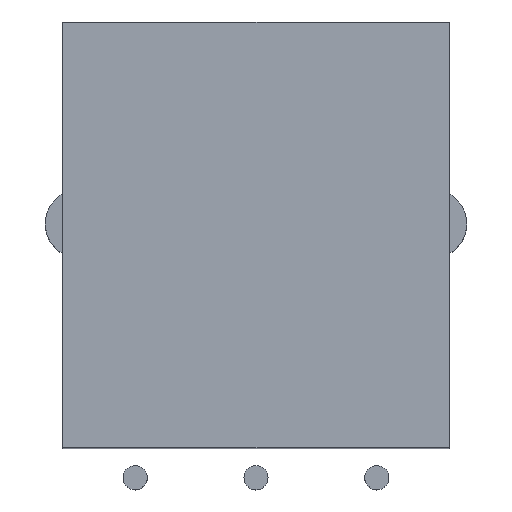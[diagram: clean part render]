
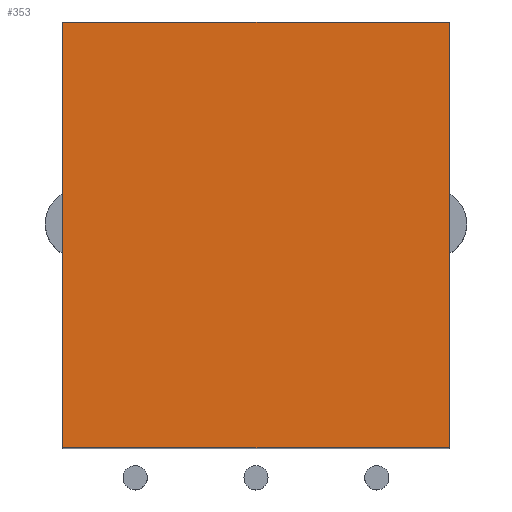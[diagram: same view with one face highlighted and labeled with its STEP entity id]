
A CAD part, top view. The second image highlights one B-rep face of the part: STEP entity #353.
In plain terms, the highlighted planar face has unit normal (0, 0, 1).
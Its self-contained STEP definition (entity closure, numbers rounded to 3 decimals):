
#39 = VERTEX_POINT('',#40);
#40 = CARTESIAN_POINT('',(-3.,18.8,28.));
#47 = PLANE('',#48);
#48 = AXIS2_PLACEMENT_3D('',#49,#50,#51);
#49 = CARTESIAN_POINT('',(-3.,18.8,0.));
#50 = DIRECTION('',(0.,1.,0.));
#51 = DIRECTION('',(1.,0.,0.));
#59 = PLANE('',#60);
#60 = AXIS2_PLACEMENT_3D('',#61,#62,#63);
#61 = CARTESIAN_POINT('',(-3.,1.2,0.));
#62 = DIRECTION('',(-1.,0.,0.));
#63 = DIRECTION('',(0.,1.,0.));
#71 = EDGE_CURVE('',#39,#72,#74,.T.);
#72 = VERTEX_POINT('',#73);
#73 = CARTESIAN_POINT('',(13.,18.8,28.));
#74 = SURFACE_CURVE('',#75,(#79,#86),.PCURVE_S1.);
#75 = LINE('',#76,#77);
#76 = CARTESIAN_POINT('',(-3.,18.8,28.));
#77 = VECTOR('',#78,1.);
#78 = DIRECTION('',(1.,0.,0.));
#79 = PCURVE('',#47,#80);
#80 = DEFINITIONAL_REPRESENTATION('',(#81),#85);
#81 = LINE('',#82,#83);
#82 = CARTESIAN_POINT('',(0.,-28.));
#83 = VECTOR('',#84,1.);
#84 = DIRECTION('',(1.,0.));
#85 = ( GEOMETRIC_REPRESENTATION_CONTEXT(2) 
PARAMETRIC_REPRESENTATION_CONTEXT() REPRESENTATION_CONTEXT('2D SPACE',''
  ) );
#86 = PCURVE('',#87,#92);
#87 = PLANE('',#88);
#88 = AXIS2_PLACEMENT_3D('',#89,#90,#91);
#89 = CARTESIAN_POINT('',(5.,10.,28.));
#90 = DIRECTION('',(0.,0.,-1.));
#91 = DIRECTION('',(0.,-1.,0.));
#92 = DEFINITIONAL_REPRESENTATION('',(#93),#97);
#93 = LINE('',#94,#95);
#94 = CARTESIAN_POINT('',(-8.8,8.));
#95 = VECTOR('',#96,1.);
#96 = DIRECTION('',(0.,-1.));
#97 = ( GEOMETRIC_REPRESENTATION_CONTEXT(2) 
PARAMETRIC_REPRESENTATION_CONTEXT() REPRESENTATION_CONTEXT('2D SPACE',''
  ) );
#115 = PLANE('',#116);
#116 = AXIS2_PLACEMENT_3D('',#117,#118,#119);
#117 = CARTESIAN_POINT('',(13.,18.8,0.));
#118 = DIRECTION('',(1.,0.,-0.));
#119 = DIRECTION('',(0.,-1.,0.));
#157 = EDGE_CURVE('',#72,#158,#160,.T.);
#158 = VERTEX_POINT('',#159);
#159 = CARTESIAN_POINT('',(13.,1.2,28.));
#160 = SURFACE_CURVE('',#161,(#165,#172),.PCURVE_S1.);
#161 = LINE('',#162,#163);
#162 = CARTESIAN_POINT('',(13.,18.8,28.));
#163 = VECTOR('',#164,1.);
#164 = DIRECTION('',(0.,-1.,0.));
#165 = PCURVE('',#115,#166);
#166 = DEFINITIONAL_REPRESENTATION('',(#167),#171);
#167 = LINE('',#168,#169);
#168 = CARTESIAN_POINT('',(0.,-28.));
#169 = VECTOR('',#170,1.);
#170 = DIRECTION('',(1.,0.));
#171 = ( GEOMETRIC_REPRESENTATION_CONTEXT(2) 
PARAMETRIC_REPRESENTATION_CONTEXT() REPRESENTATION_CONTEXT('2D SPACE',''
  ) );
#172 = PCURVE('',#87,#173);
#173 = DEFINITIONAL_REPRESENTATION('',(#174),#178);
#174 = LINE('',#175,#176);
#175 = CARTESIAN_POINT('',(-8.8,-8.));
#176 = VECTOR('',#177,1.);
#177 = DIRECTION('',(1.,0.));
#178 = ( GEOMETRIC_REPRESENTATION_CONTEXT(2) 
PARAMETRIC_REPRESENTATION_CONTEXT() REPRESENTATION_CONTEXT('2D SPACE',''
  ) );
#196 = PLANE('',#197);
#197 = AXIS2_PLACEMENT_3D('',#198,#199,#200);
#198 = CARTESIAN_POINT('',(13.,1.2,0.));
#199 = DIRECTION('',(0.,-1.,0.));
#200 = DIRECTION('',(-1.,0.,0.));
#233 = EDGE_CURVE('',#158,#234,#236,.T.);
#234 = VERTEX_POINT('',#235);
#235 = CARTESIAN_POINT('',(-3.,1.2,28.));
#236 = SURFACE_CURVE('',#237,(#241,#248),.PCURVE_S1.);
#237 = LINE('',#238,#239);
#238 = CARTESIAN_POINT('',(13.,1.2,28.));
#239 = VECTOR('',#240,1.);
#240 = DIRECTION('',(-1.,0.,0.));
#241 = PCURVE('',#196,#242);
#242 = DEFINITIONAL_REPRESENTATION('',(#243),#247);
#243 = LINE('',#244,#245);
#244 = CARTESIAN_POINT('',(0.,-28.));
#245 = VECTOR('',#246,1.);
#246 = DIRECTION('',(1.,0.));
#247 = ( GEOMETRIC_REPRESENTATION_CONTEXT(2) 
PARAMETRIC_REPRESENTATION_CONTEXT() REPRESENTATION_CONTEXT('2D SPACE',''
  ) );
#248 = PCURVE('',#87,#249);
#249 = DEFINITIONAL_REPRESENTATION('',(#250),#254);
#250 = LINE('',#251,#252);
#251 = CARTESIAN_POINT('',(8.8,-8.));
#252 = VECTOR('',#253,1.);
#253 = DIRECTION('',(0.,1.));
#254 = ( GEOMETRIC_REPRESENTATION_CONTEXT(2) 
PARAMETRIC_REPRESENTATION_CONTEXT() REPRESENTATION_CONTEXT('2D SPACE',''
  ) );
#304 = EDGE_CURVE('',#234,#39,#305,.T.);
#305 = SURFACE_CURVE('',#306,(#310,#317),.PCURVE_S1.);
#306 = LINE('',#307,#308);
#307 = CARTESIAN_POINT('',(-3.,1.2,28.));
#308 = VECTOR('',#309,1.);
#309 = DIRECTION('',(0.,1.,0.));
#310 = PCURVE('',#59,#311);
#311 = DEFINITIONAL_REPRESENTATION('',(#312),#316);
#312 = LINE('',#313,#314);
#313 = CARTESIAN_POINT('',(0.,-28.));
#314 = VECTOR('',#315,1.);
#315 = DIRECTION('',(1.,0.));
#316 = ( GEOMETRIC_REPRESENTATION_CONTEXT(2) 
PARAMETRIC_REPRESENTATION_CONTEXT() REPRESENTATION_CONTEXT('2D SPACE',''
  ) );
#317 = PCURVE('',#87,#318);
#318 = DEFINITIONAL_REPRESENTATION('',(#319),#323);
#319 = LINE('',#320,#321);
#320 = CARTESIAN_POINT('',(8.8,8.));
#321 = VECTOR('',#322,1.);
#322 = DIRECTION('',(-1.,0.));
#323 = ( GEOMETRIC_REPRESENTATION_CONTEXT(2) 
PARAMETRIC_REPRESENTATION_CONTEXT() REPRESENTATION_CONTEXT('2D SPACE',''
  ) );
#353 = ADVANCED_FACE('',(#354),#87,.F.);
#354 = FACE_BOUND('',#355,.F.);
#355 = EDGE_LOOP('',(#356,#357,#358,#359));
#356 = ORIENTED_EDGE('',*,*,#71,.T.);
#357 = ORIENTED_EDGE('',*,*,#157,.T.);
#358 = ORIENTED_EDGE('',*,*,#233,.T.);
#359 = ORIENTED_EDGE('',*,*,#304,.T.);
